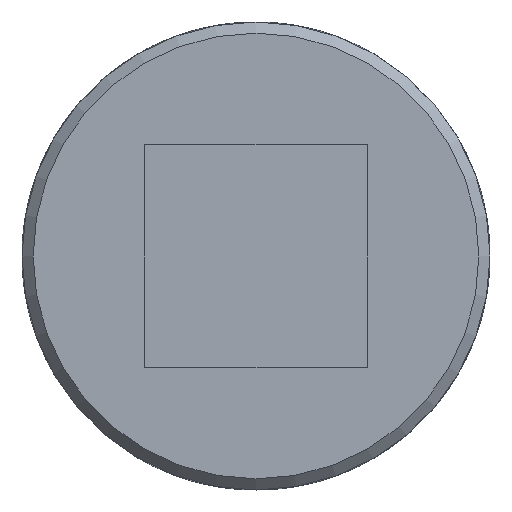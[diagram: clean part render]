
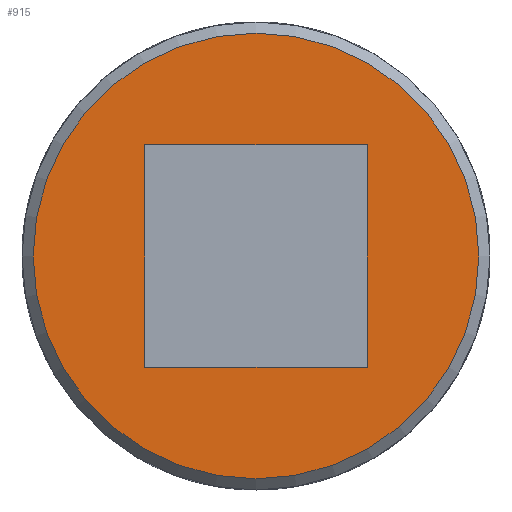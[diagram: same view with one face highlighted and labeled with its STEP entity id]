
A CAD part, front view. The second image highlights one B-rep face of the part: STEP entity #915.
In plain terms, the highlighted planar face has unit normal (0, -1, 0).
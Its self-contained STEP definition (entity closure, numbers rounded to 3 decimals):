
#102=LINE('',#1367,#142);
#106=LINE('',#1390,#146);
#112=LINE('',#1428,#152);
#115=LINE('',#1448,#155);
#142=VECTOR('',#1120,20.);
#146=VECTOR('',#1128,20.);
#152=VECTOR('',#1136,20.);
#155=VECTOR('',#1143,20.);
#182=PLANE('',#995);
#207=FACE_BOUND('',#311,.T.);
#240=FACE_OUTER_BOUND('',#310,.T.);
#310=EDGE_LOOP('',(#729));
#311=EDGE_LOOP('',(#730,#731,#732,#733));
#364=CIRCLE('',#993,20.);
#408=VERTEX_POINT('',#1364);
#409=VERTEX_POINT('',#1366);
#415=VERTEX_POINT('',#1389);
#424=VERTEX_POINT('',#1426);
#431=VERTEX_POINT('',#1493);
#503=EDGE_CURVE('',#409,#408,#102,.T.);
#510=EDGE_CURVE('',#415,#409,#106,.T.);
#520=EDGE_CURVE('',#408,#424,#112,.T.);
#526=EDGE_CURVE('',#424,#415,#115,.T.);
#537=EDGE_CURVE('',#431,#431,#364,.T.);
#729=ORIENTED_EDGE('',*,*,#537,.F.);
#730=ORIENTED_EDGE('',*,*,#503,.T.);
#731=ORIENTED_EDGE('',*,*,#520,.T.);
#732=ORIENTED_EDGE('',*,*,#526,.T.);
#733=ORIENTED_EDGE('',*,*,#510,.T.);
#915=ADVANCED_FACE('',(#240,#207),#182,.F.);
#993=AXIS2_PLACEMENT_3D('',#1494,#1172,#1173);
#995=AXIS2_PLACEMENT_3D('',#1718,#1180,#1181);
#1120=DIRECTION('',(0.,0.,-1.));
#1128=DIRECTION('',(1.,0.,0.));
#1136=DIRECTION('',(-1.,0.,0.));
#1143=DIRECTION('',(0.,0.,1.));
#1172=DIRECTION('center_axis',(0.,1.,0.));
#1173=DIRECTION('ref_axis',(1.,0.,0.));
#1180=DIRECTION('center_axis',(0.,1.,0.));
#1181=DIRECTION('ref_axis',(0.,0.,1.));
#1364=CARTESIAN_POINT('',(10.,-51.,-10.));
#1366=CARTESIAN_POINT('',(10.,-51.,10.));
#1367=CARTESIAN_POINT('',(10.,-51.,5.));
#1389=CARTESIAN_POINT('',(-10.,-51.,10.));
#1390=CARTESIAN_POINT('',(-5.,-51.,10.));
#1426=CARTESIAN_POINT('',(-10.,-51.,-10.));
#1428=CARTESIAN_POINT('',(5.,-51.,-10.));
#1448=CARTESIAN_POINT('',(-10.,-51.,-5.));
#1493=CARTESIAN_POINT('',(-20.,-51.,0.));
#1494=CARTESIAN_POINT('Origin',(0.,-51.,0.));
#1718=CARTESIAN_POINT('Origin',(0.,-51.,0.));
